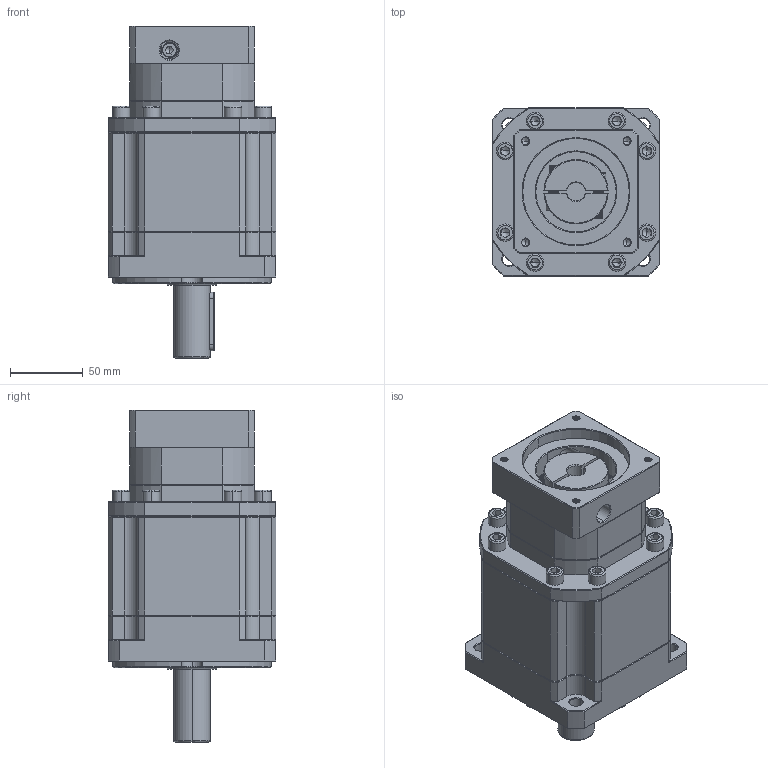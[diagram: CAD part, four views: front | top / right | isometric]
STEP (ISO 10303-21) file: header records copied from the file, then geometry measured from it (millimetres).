
FILE_DESCRIPTION (( 'STEP AP214' ), '1' );
FILE_NAME ('ZB115A-D25-L3-P2-12.7-73-69.6X69.6-M6.step', '2023-08-26T10:00:11', ( '' ), ( '' ), 'SwSTEP 2.0', 'SolidWorks 2016', '' );
FILE_SCHEMA (( 'AUTOMOTIVE_DESIGN' ));
Length unit declared in the file: millimetre
Products named in the file (1): ZB115A-D25-L3-P2-12.7-73-69.6X69.6-M6
Bounding box: 115 x 115 x 227.5 mm (x, y, z)
Volume: 1689973.2 mm3; surface area: 145616.4 mm2
Topology: 5 solids, 6 shells, 2409 faces, 6322 edges, 4015 vertices
Faces by surface type: plane 1186, bspline 427, cylinder 425, cone 356, torus 15
Entity records: 128143 total; most frequent: CARTESIAN_POINT 45908, ORIENTED_EDGE 12568, DIRECTION 9950, EDGE_CURVE 6284, VECTOR 4040, LINE 4040, VERTEX_POINT 4015, AXIS2_PLACEMENT_3D 2955
